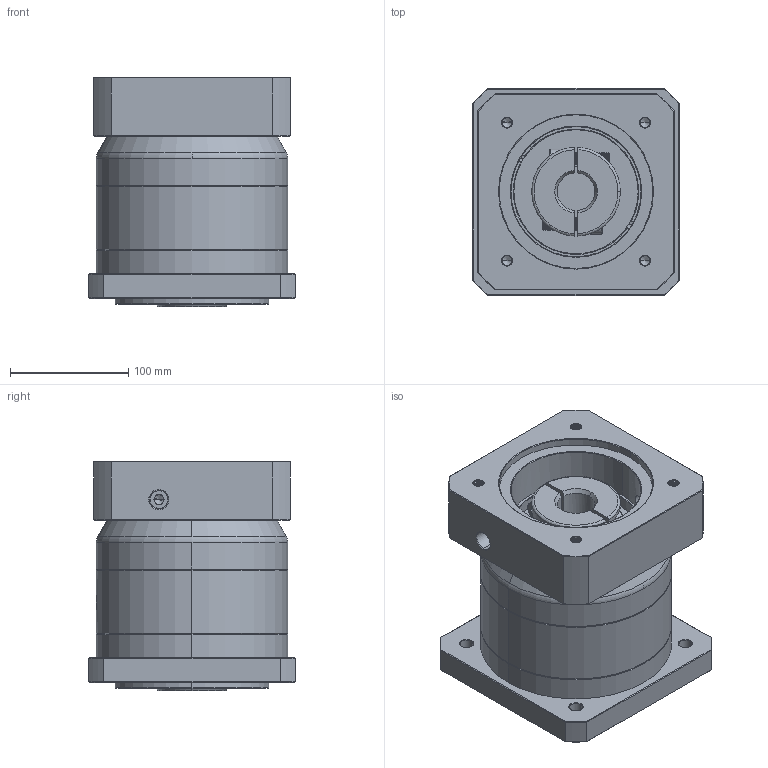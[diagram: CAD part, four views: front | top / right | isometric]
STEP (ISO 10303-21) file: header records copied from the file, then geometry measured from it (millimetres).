
FILE_DESCRIPTION (( 'STEP AP214' ), '1' );
FILE_NAME ('ZF160A-K35-L1-P2-32-130-165-M10.step', '2023-09-03T07:01:38', ( '' ), ( '' ), 'SwSTEP 2.0', 'SolidWorks 2016', '' );
FILE_SCHEMA (( 'AUTOMOTIVE_DESIGN' ));
Length unit declared in the file: millimetre
Products named in the file (1): ZF160A-K35-L1-P2-32-130-165-M10
Bounding box: 175 x 175 x 194.2 mm (x, y, z)
Volume: 3875327.1 mm3; surface area: 327205.1 mm2
Topology: 6 solids, 6 shells, 2148 faces, 5813 edges, 3769 vertices
Faces by surface type: plane 1010, bspline 404, cylinder 392, cone 320, torus 22
Entity records: 119031 total; most frequent: CARTESIAN_POINT 46317, ORIENTED_EDGE 11570, DIRECTION 8465, EDGE_CURVE 5785, VERTEX_POINT 3769, VECTOR 3011, LINE 3011, AXIS2_PLACEMENT_3D 2727
